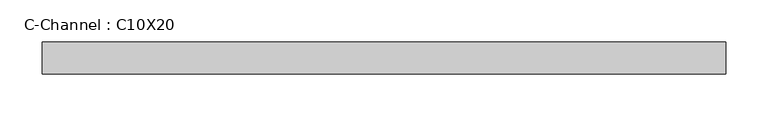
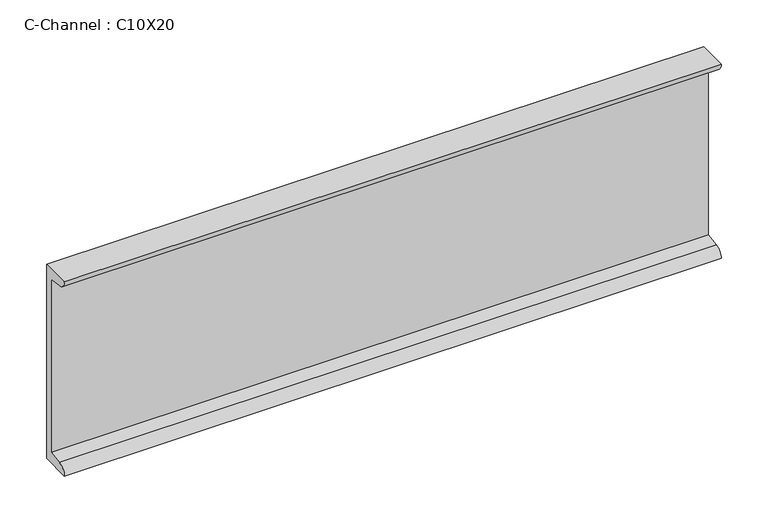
"""IFC4 building model written with IfcOpenShell, lengths in millimetres: beam geometry, C-Channel : C10X20."""

from ifc_helpers import new_model, si_unit, point, frame, frame_2d, origin, place, context, project, spatial, polyline, circle_curve, trimmed, segment, composite_curve, outline, extrude, source, transform, mapped, element, save


def c_channel_c10x20_f8b15b4c(model_context):
    return source(origin(), model_context, "Body", "SweptSolid", [
        extrude(outline(composite_curve([segment(polyline([(15.3924, 127.0), (15.3924, -127.0), (-22.7076, -127.0)]), True, "CONTINUOUS"), segment(trimmed(circle_curve(frame_2d((-11.6332, -127.0)), 11.0744), [point((-22.7076, -127.0))], [point((-11.6332, -115.9256))], False, "CARTESIAN"), True, "CONTINUOUS"), segment(polyline([(-11.6332, -115.9256), (5.7658, -113.1698691), (5.7658, 113.1698691), (-11.6332, 115.9256)]), True, "CONTINUOUS"), segment(trimmed(circle_curve(frame_2d((-11.6332, 127.0)), 11.0744), [point((-11.6332, 115.9256))], [point((-22.7076, 127.0))], False, "CARTESIAN"), True, "CONTINUOUS"), segment(polyline([(-22.7076, 127.0), (15.3924, 127.0)]), True, "CONTINUOUS")], self_intersect=False)), frame((-307.10505, 0.0, 0.0), z_axis=(1.0, 0.0, 0.0), x_axis=(0.0, 1.0, 0.0)), (0.0, 0.0, 1.0), 812.8),
    ])


if __name__ == "__main__":
    model = new_model("IFC4")
    model_context = context("Model", 3, world=origin())
    ifc_project = project(units=[si_unit("LENGTHUNIT", "METRE", prefix="MILLI")], contexts=[model_context])
    site = spatial("IfcSite", under=ifc_project)
    building = spatial("IfcBuilding", under=site)
    placement = place(None, origin())
    c_channel_c10x20_shape = c_channel_c10x20_f8b15b4c(model_context)
    element("IfcBeam", 1, ObjectType="C-Channel : C10X20", at=placement, inside=building, context=model_context, shape_type="MappedRepresentation", body=[
        mapped(c_channel_c10x20_shape, transform((0.0, 0.0, 0.0), x_axis=(1.0, 0.0, 0.0), y_axis=(0.0, 1.0, 0.0), z_axis=(0.0, 0.0, 1.0))),
    ])
    save(model, "model.ifc")
